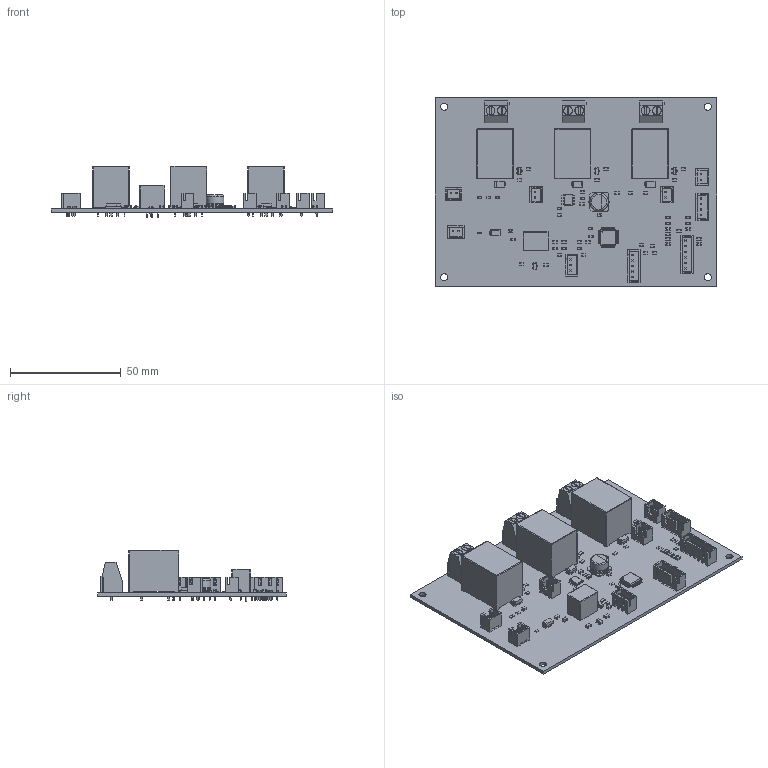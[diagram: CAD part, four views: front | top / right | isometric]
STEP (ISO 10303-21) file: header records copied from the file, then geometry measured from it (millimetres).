
FILE_DESCRIPTION(('KiCad electronic assembly'),'2;1');
FILE_NAME('COFFEE-MAIN-A01.step','2026-10-04T12:22:27',('Pcbnew'),( 'Kicad'),'Open CASCADE STEP processor 7.9','KiCad to STEP converter' ,'Unknown');
FILE_SCHEMA(('AUTOMOTIVE_DESIGN { 1 0 10303 214 1 1 1 1 }'));
Length unit declared in the file: millimetre
Products named in the file (34): COFFEE-MAIN-A01 1; SOT-23; C_0805_2012Metric; R_0805_2012Metric; JST_XH_B5B-XH-A_1x05_P2.50mm_Vertical; JST_B5B_XH_A; JST_XH_B6B-XH-A_1x06_P2.50mm_Vertical; JST_B6B_XH_A; Relay_SPDT_Omron-G5LE-1; Converter_DCDC_RECOM_R-78E-0.5_THT; Converter_DCDC_RECOM_R_78E_05_THT; D_SMA; JST_XH_B2B-XH-A_1x02_P2.50mm_Vertical; JST_B2B_XH_A; LQFP-32_7x7mm_P0.8mm; TerminalBlock_Phoenix_MKDS-1,5-2-5.08_1x02_P5.08mm_Horizontal; Texas_HTSOP-8-1EP_3.9x4.9mm_P1.27mm_EP2.85x4.9mm_Mask2.4x3.1mm_
ThermalVias; Texas_HTSOP_8_1EP_39x49mm_P127mm_EP285x49mm_Mask24x31mm_ThermalVias; JST_XH_B4B-XH-A_1x04_P2.50mm_Vertical; JST_B4B_XH_A; JST_XH_B3B-XH-A_1x03_P2.50mm_Vertical; JST_B3B_XH_A; Fuse_0603_1608Metric; CP_Elec_8x6.2; CP_Elec_8x62; COFFEE-MAIN-A01_PCB
Assembly tree (94 placements, depth 3):
  COFFEE-MAIN-A01 1
    SOT-23  x4
      SOT-23
    C_0805_2012Metric  x21
      C_0805_2012Metric
    R_0805_2012Metric  x28
      R_0805_2012Metric
    JST_XH_B5B-XH-A_1x05_P2.50mm_Vertical
      JST_B5B_XH_A
    JST_XH_B6B-XH-A_1x06_P2.50mm_Vertical
      JST_B6B_XH_A
    Relay_SPDT_Omron-G5LE-1  x3
      Relay_SPDT_Omron-G5LE-1
    Converter_DCDC_RECOM_R-78E-0.5_THT
      Converter_DCDC_RECOM_R_78E_05_THT
    D_SMA  x4
      D_SMA
    JST_XH_B2B-XH-A_1x02_P2.50mm_Vertical  x5
      JST_B2B_XH_A
    LQFP-32_7x7mm_P0.8mm
      LQFP-32_7x7mm_P0.8mm
    TerminalBlock_Phoenix_MKDS-1,5-2-5.08_1x02_P5.08mm_Horizontal  x3
      TerminalBlock_Phoenix_MKDS-1,5-2-5.08_1x02_P5.08mm_Horizontal
    Texas_HTSOP-8-1EP_3.9x4.9mm_P1.27mm_EP2.85x4.9mm_Mask2.4x3.1mm_
ThermalVias
      Texas_HTSOP_8_1EP_39x49mm_P127mm_EP285x49mm_Mask24x31mm_ThermalVias
    JST_XH_B4B-XH-A_1x04_P2.50mm_Vertical
      JST_B4B_XH_A
    JST_XH_B3B-XH-A_1x03_P2.50mm_Vertical
      JST_B3B_XH_A
    Fuse_0603_1608Metric
      Fuse_0603_1608Metric
    CP_Elec_8x6.2
      CP_Elec_8x62
    COFFEE-MAIN-A01_PCB
Bounding box: 127 x 85 x 23.1 mm (x, y, z)
Volume: 43364.8 mm3; surface area: 39952.2 mm2
Topology: 78 solids, 78 shells, 4130 faces, 10718 edges, 6871 vertices
Faces by surface type: plane 3004, cylinder 924, bspline 178, sphere 12, torus 11, revolution 1
Full cylindrical faces by diameter (mm): 0.2 x1, 0.33 x6, 0.5 x3, 0.95 x18, 1 x13, 1.3 x21, 3.2 x4, 3.8 x6, 4 x6, 8 x2
Entity records: 71431 total; most frequent: CARTESIAN_POINT 10413, ORIENTED_EDGE 9686, DIRECTION 9168, EDGE_CURVE 4843, LINE 4013, VECTOR 4013, VERTEX_POINT 3082, AXIS2_PLACEMENT_3D 2577
